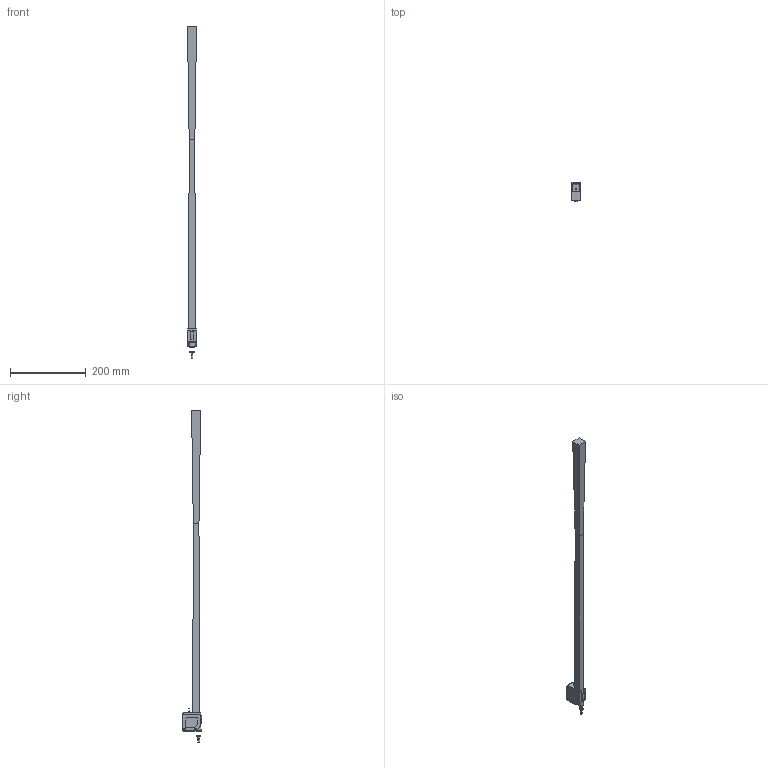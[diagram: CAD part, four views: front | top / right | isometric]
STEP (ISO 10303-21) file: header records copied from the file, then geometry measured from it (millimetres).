
FILE_DESCRIPTION(/* description */ (''),/* implementation_level */ '2;1');
FILE_NAME(/* name */ 'C:\Temp\Publisher-Output\623-11014_FT 55B-RH-PS-K4.stp',/* time_stamp */ '2023-01-26T00:01:19+01:00',/* author */ ('Sandra.Stahl'),/* organization */ (''),/* preprocessor_version */ 'ST-DEVELOPER v18.1',/* originating_system */ 'Autodesk Inventor 2022',/* authorisation */ '');
FILE_SCHEMA (('AUTOMOTIVE_DESIGN { 1 0 10303 214 3 1 1 }'));
Length unit declared in the file: millimetre
Products named in the file (1): GH-ENG-0039509_Vereinfachen_1
Bounding box: 24 x 51 x 877.3 mm (x, y, z)
Volume: 306028.1 mm3; surface area: 68443.7 mm2
Topology: 5 solids, 5 shells, 236 faces, 565 edges, 348 vertices
Faces by surface type: plane 146, cylinder 51, bspline 20, cone 11, sphere 6, torus 2
Full cylindrical faces by diameter (mm): 1 x1, 4.3 x1, 5 x2, 6.413 x1, 8.1 x1, 8.3 x1, 12.4 x1, 16 x1
Entity records: 7883 total; most frequent: CARTESIAN_POINT 2243, ORIENTED_EDGE 1116, DIRECTION 1048, EDGE_CURVE 558, LINE 382, VECTOR 382, VERTEX_POINT 347, AXIS2_PLACEMENT_3D 333
